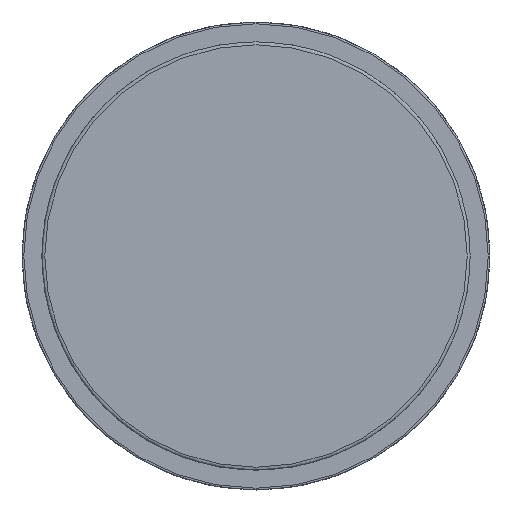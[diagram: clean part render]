
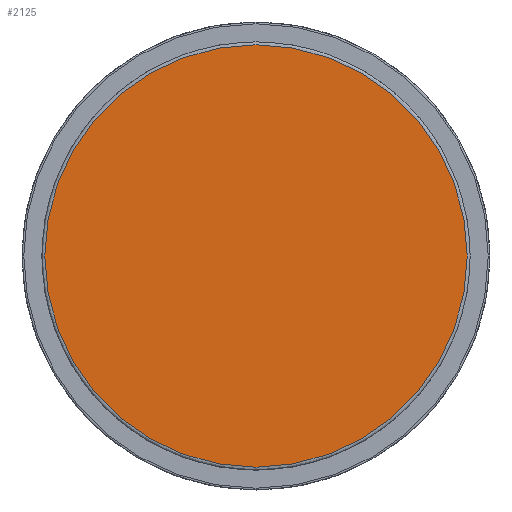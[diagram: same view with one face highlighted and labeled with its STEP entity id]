
A CAD part, left-side view. The second image highlights one B-rep face of the part: STEP entity #2125.
In plain terms, the highlighted planar face has unit normal (-1, 0, 0).
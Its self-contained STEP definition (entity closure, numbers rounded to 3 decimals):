
#2100=CARTESIAN_POINT('',(-528.136,-400.809,-87.3));
#2101=DIRECTION('',(-1.0,0.0,0.0));
#2102=DIRECTION('',(0.0,-1.0,0.0));
#2103=AXIS2_PLACEMENT_3D('',#2100,#2101,#2102);
#2104=PLANE('',#2103);
#2105=CARTESIAN_POINT('',(-528.136,-559.859,0.0));
#2106=VERTEX_POINT('',#2105);
#2107=CARTESIAN_POINT('',(-528.136,-416.359,0.0));
#2108=VERTEX_POINT('',#2107);
#2109=CARTESIAN_POINT('',(-528.136,-488.109,0.0));
#2110=DIRECTION('',(-1.0,0.0,0.0));
#2111=DIRECTION('',(0.0,-1.0,0.0));
#2112=AXIS2_PLACEMENT_3D('',#2109,#2110,#2111);
#2113=CIRCLE('',#2112,71.75);
#2114=EDGE_CURVE('',#2106,#2108,#2113,.T.);
#2115=ORIENTED_EDGE('',*,*,#2114,.T.);
#2116=CARTESIAN_POINT('',(-528.136,-488.109,0.0));
#2117=DIRECTION('',(-1.0,0.0,0.0));
#2118=DIRECTION('',(0.0,-1.0,0.0));
#2119=AXIS2_PLACEMENT_3D('',#2116,#2117,#2118);
#2120=CIRCLE('',#2119,71.75);
#2121=EDGE_CURVE('',#2108,#2106,#2120,.T.);
#2122=ORIENTED_EDGE('',*,*,#2121,.T.);
#2123=EDGE_LOOP('',(#2115,#2122));
#2124=FACE_OUTER_BOUND('',#2123,.T.);
#2125=ADVANCED_FACE('',(#2124),#2104,.T.);
